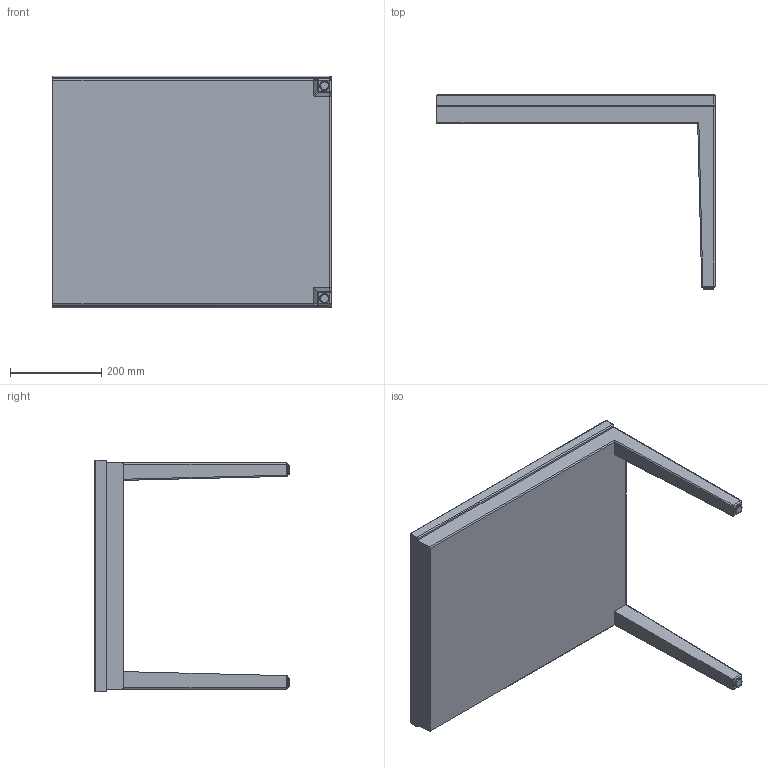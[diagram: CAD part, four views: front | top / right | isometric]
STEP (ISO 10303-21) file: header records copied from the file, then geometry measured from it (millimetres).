
FILE_DESCRIPTION(/* description */ (''),/* implementation_level */ '2;1');
FILE_NAME(/* name */ 'Geo_T2024ET.step',/* time_stamp */ '2026-03-20T13:57:48-07:00',/* author */ (''),/* organization */ (''),/* preprocessor_version */ 'ST-DEVELOPER v20.1',/* originating_system */ 'Autodesk Translation Framework v14.24.0.0',/* authorisation */ '');
FILE_SCHEMA (('AUTOMOTIVE_DESIGN { 1 0 10303 214 3 1 1 }'));
Length unit declared in the file: inch
Products named in the file (1): Geo Tables_\
Bounding box: 609.6 x 426.08 x 508 mm (x, y, z)
Volume: 20177961.2 mm3; surface area: 1452261.6 mm2
Topology: 4 solids, 4 shells, 64 faces, 128 edges, 72 vertices
Faces by surface type: cylinder 27, plane 22, sphere 11, torus 2, cone 2
Entity records: 1661 total; most frequent: DIRECTION 315, CARTESIAN_POINT 265, ORIENTED_EDGE 256, EDGE_CURVE 128, AXIS2_PLACEMENT_3D 122, VERTEX_POINT 72, LINE 71, VECTOR 71
